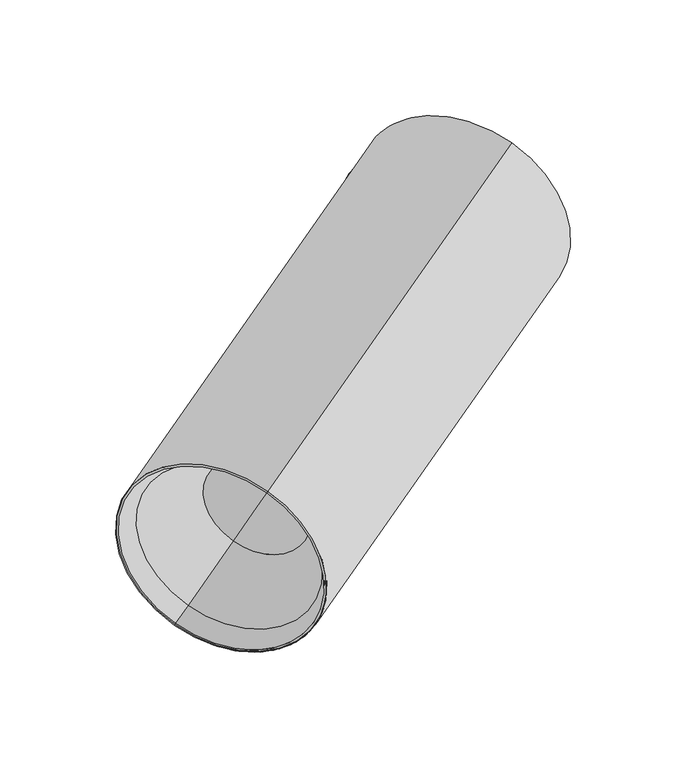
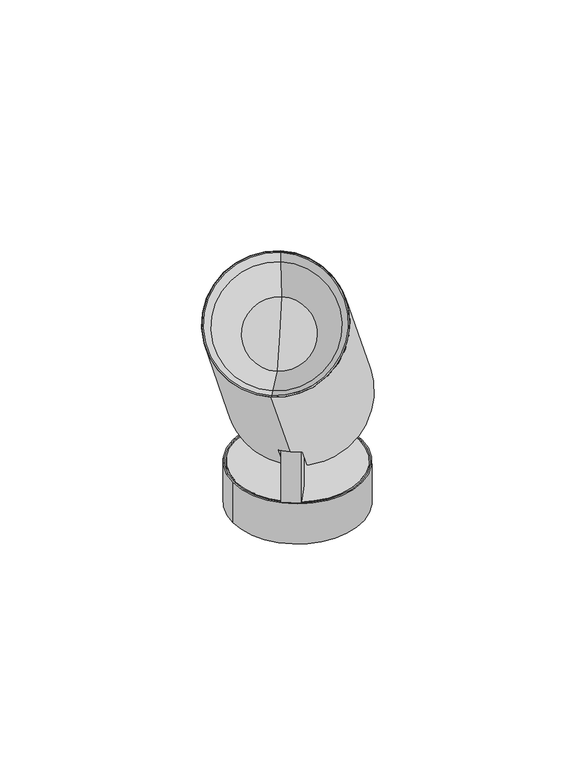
"""IFC4 building model written with IfcOpenShell, lengths in millimetres: light fixture geometry, PIPES C S : 1700 21W-830 28°."""

from ifc_helpers import new_model, si_unit, point, frame, frame_2d, origin, origin_with_axes, origin_2d, place, context, project, spatial, polyline, circle_curve, trimmed, segment, composite_curve, outline, extrude, source, transform, mapped, element, save
from ifc_brep_helpers import plane_surface, cylinder_surface, revolved_surface, advanced_brep


def light_fixture_a0fbeb15(model_context):
    return source(origin(), model_context, "Body", "SolidModel", [
        advanced_brep(
        [(-16.7954209, -37.9339212, 92.8492424), (-0.5722294, -14.7648026, 64.5649712), (-7.6003748, -24.8020345, 52.3117735), (-3.1389971, -18.4305269, 44.5335989), (-3.9611935, -19.604745, 43.1001433), (-24.6457627, -49.1453713, 79.1625891), (-29.9018536, -28.7566982, 92.8492424), (-37.7521954, -39.9681483, 79.1625891), (-17.0676262, -10.427522, 43.1001433), (-16.2454299, -9.2533039, 44.5335989), (-20.7068075, -15.6248115, 52.3117735), (-13.6786621, -5.5875796, 64.5649712), (-7.1254457, -10.1761911, 64.5649712), (-31.460233, -44.929869, 78.7071068), (-75.6684299, -108.0657173, 297.2031022), (-116.2264086, -165.9885138, 226.492424), (-110.3790223, -157.6375807, 223.5599433), (-73.986428, -105.6635696, 287.0084952), (29.7823149, 42.5335537, 113.3553391), (28.9711554, 41.3750978, 111.9411255), (24.5097777, 35.0035902, 119.7193001), (5.0419479, 7.2006478, 85.7781746), (-69.4831478, -99.232219, 252.3808823), (-90.5174395, -129.2723008, 215.7087138), (-80.0002936, -114.2522599, 234.0447981)],
        [
            (0, 1),
            (1, 2),
            (2, 3),
            (3, 4),
            (4, 5),
            (5, 0),
            (6, 7),
            (7, 8),
            (8, 9),
            (9, 10),
            (10, 11),
            (11, 6),
            (0, 6),
            (11, 12),
            (12, 1),
            (5, 13, circle_curve(frame((-11.1812436, -15.9684708, 114.0624458), z_axis=(0.40557978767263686, 0.5792279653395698, -0.7071067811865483), x_axis=(-0.40557978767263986, -0.5792279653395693, -0.7071067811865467)), 50.0)),
            (13, 7, circle_curve(frame((-11.1812436, -15.9684708, 114.0624458), z_axis=(0.40557978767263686, 0.5792279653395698, -0.7071067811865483), x_axis=(-0.40557978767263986, -0.5792279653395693, -0.7071067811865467)), 50.0)),
            (14, 15, circle_curve(frame((-95.9474192, -137.0271155, 261.8477631), z_axis=(-0.40557978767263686, -0.5792279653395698, 0.7071067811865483), x_axis=(-0.40557978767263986, -0.5792279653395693, -0.7071067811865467)), 50.0)),
            (15, 16),
            (16, 17, circle_curve(frame((-92.1827251, -131.6505752, 255.2842192), z_axis=(0.40557978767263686, 0.5792279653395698, -0.7071067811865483), x_axis=(-0.40557978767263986, -0.5792279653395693, -0.7071067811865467)), 44.8649013)),
            (17, 14),
            (15, 14, circle_curve(frame((-95.9474192, -137.0271155, 261.8477631), z_axis=(-0.40557978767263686, -0.5792279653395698, 0.7071067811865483), x_axis=(-0.40557978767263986, -0.5792279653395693, -0.7071067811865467)), 50.0)),
            (17, 16, circle_curve(frame((-92.1827251, -131.6505752, 255.2842192), z_axis=(0.40557978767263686, 0.5792279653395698, -0.7071067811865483), x_axis=(-0.40557978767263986, -0.5792279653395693, -0.7071067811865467)), 44.8649013)),
            (14, 18),
            (18, 8, circle_curve(frame((9.5033256, 13.5721555, 78.0), z_axis=(-0.40557978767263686, -0.5792279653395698, 0.7071067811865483), x_axis=(-0.40557978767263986, -0.5792279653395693, -0.7071067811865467)), 50.0)),
            (13, 15),
            (4, 18, circle_curve(frame((9.5033256, 13.5721555, 78.0), z_axis=(-0.40557978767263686, -0.5792279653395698, 0.7071067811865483), x_axis=(-0.40557978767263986, -0.5792279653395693, -0.7071067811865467)), 50.0)),
            (18, 19),
            (19, 9, circle_curve(frame((9.5033256, 13.5721555, 78.0), z_axis=(-0.40557978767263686, -0.5792279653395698, 0.7071067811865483), x_axis=(-0.40557978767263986, -0.5792279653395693, -0.7071067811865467)), 48.0)),
            (3, 19, circle_curve(frame((9.5033256, 13.5721555, 78.0), z_axis=(-0.40557978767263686, -0.5792279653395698, 0.7071067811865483), x_axis=(-0.40557978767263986, -0.5792279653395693, -0.7071067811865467)), 48.0)),
            (19, 20),
            (20, 10, circle_curve(frame((5.0419479, 7.2006478, 85.7781746), z_axis=(-0.40557978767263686, -0.5792279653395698, 0.7071067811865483), x_axis=(-0.40557978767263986, -0.5792279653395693, -0.7071067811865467)), 48.0)),
            (2, 20, circle_curve(frame((5.0419479, 7.2006478, 85.7781746), z_axis=(-0.40557978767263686, -0.5792279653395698, 0.7071067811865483), x_axis=(-0.40557978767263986, -0.5792279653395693, -0.7071067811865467)), 48.0)),
            (20, 21),
            (21, 12),
            (22, 23, circle_curve(frame((-80.0002936, -114.2522599, 234.0447981), z_axis=(-0.40557978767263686, -0.5792279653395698, 0.7071067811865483), x_axis=(-0.40557978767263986, -0.5792279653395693, -0.7071067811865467)), 25.931139)),
            (23, 24),
            (24, 22),
            (23, 22, circle_curve(frame((-80.0002936, -114.2522599, 234.0447981), z_axis=(-0.40557978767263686, -0.5792279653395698, 0.7071067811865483), x_axis=(-0.40557978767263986, -0.5792279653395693, -0.7071067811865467)), 25.931139)),
            (16, 23),
            (22, 17),
        ],
        [
            plane_surface(frame((-16.7954209, -37.9339212, 92.8492424), z_axis=(-0.8191520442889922, 0.5735764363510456, 0.0), x_axis=(-0.4055797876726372, -0.5792279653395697, 0.7071067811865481))),
            plane_surface(frame((-29.9018536, -28.7566982, 92.8492424), z_axis=(0.8191520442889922, -0.5735764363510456, 0.0), x_axis=(0.4055797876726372, 0.5792279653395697, -0.7071067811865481))),
            plane_surface(frame((-29.9018536, -28.7566982, 92.8492424), z_axis=(-0.4055797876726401, -0.5792279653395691, -0.707106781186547), x_axis=(0.8191520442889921, -0.5735764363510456, 0.0))),
            plane_surface(frame((-40.0413483, -43.2373974, 75.1715729), z_axis=(0.4055797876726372, 0.5792279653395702, -0.7071067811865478), x_axis=(0.8191520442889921, -0.5735764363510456, 0.0))),
            revolved_surface(polyline([(-110.3790223, -157.6375807, 223.5599433), (-116.2264086, -165.9885138, 226.492424)]), (11.7147011, 16.730327, 74.1445845), (0.40557978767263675, 0.5792279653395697, -0.7071067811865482)),
            cylinder_surface(frame((11.7147011, 16.730327, 74.1445845), z_axis=(0.40557978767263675, 0.5792279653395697, -0.7071067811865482), x_axis=(-0.40557978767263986, -0.5792279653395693, -0.7071067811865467)), 50.0),
            plane_surface(frame((9.5033256, 13.5721555, 78.0), z_axis=(0.40557978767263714, 0.5792279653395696, -0.7071067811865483), x_axis=(-0.4055797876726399, -0.5792279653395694, -0.7071067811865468))),
            revolved_surface(polyline([(-9.964504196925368, -14.230786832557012, 44.05887451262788), (-14.425881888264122, -20.60229448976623, 51.83704915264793)]), (11.7147011, 16.730327, 74.1445845), (0.40557978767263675, 0.5792279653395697, -0.7071067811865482)),
            plane_surface(frame((5.0419479, 7.2006478, 85.7781746), z_axis=(0.40557978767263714, 0.5792279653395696, -0.7071067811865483), x_axis=(-0.4055797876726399, -0.5792279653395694, -0.7071067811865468))),
            plane_surface(frame((-80.0002936, -114.2522599, 234.0447981), z_axis=(-0.40557978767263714, -0.5792279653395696, 0.7071067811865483), x_axis=(-0.4055797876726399, -0.5792279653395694, -0.7071067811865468))),
            revolved_surface(polyline([(-90.5174395, -129.2723008, 215.7087138), (-110.3790223, -157.6375807, 223.5599433)]), (11.7147011, 16.730327, 74.1445845), (0.40557978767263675, 0.5792279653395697, -0.7071067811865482)),
        ],
        [
            (0, [[1, 2, 3, 4, 5, 6]]),
            (1, [[7, 8, 9, 10, 11, 12]]),
            (2, [[13, -12, 14, 15, -1]]),
            (3, [[-13, -6, 16, 17, -7]]),
            (4, [[18, 19, 20, 21]]),
            (4, [[-19, 22, -21, 23]]),
            (5, [[-18, 24, 25, -8, -17, 26]]),
            (5, [[-22, -26, -16, -5, 27, -24]]),
            (6, [[28, 29, -9, -25]]),
            (6, [[-28, -27, -4, 30]]),
            (7, [[31, 32, -10, -29]]),
            (7, [[-31, -30, -3, 33]]),
            (8, [[34, 35, -14, -11, -32]]),
            (8, [[-34, -33, -2, -15, -35]]),
            (9, [[36, 37, 38]]),
            (9, [[-37, 39, -38]]),
            (10, [[-20, 40, -36, 41]]),
            (10, [[-23, -41, -39, -40]]),
        ],
    ),
        advanced_brep(
        [(3.0779887, -9.5517509, 58.2010101), (3.8891483, -8.393295, 56.7867966), (-2.3152934, -17.254156, 45.9696827), (-3.1264529, -18.4126119, 47.3838962), (-9.2172844, 0.783928, 56.7867966), (-10.028444, -0.3745279, 58.2010101), (-16.2328856, -9.2353889, 47.3838962), (-15.4217261, -8.076933, 45.9696827), (-3.4752276, -4.9631394, 58.2010101), (-2.6640681, -3.8046835, 56.7867966), (8.8283114, 12.6081353, 79.6515758), (27.6185489, 39.4433755, 112.4113551), (28.4297084, 40.6018314, 110.9971416), (9.6394709, 13.7665912, 78.2373622)],
        [
            (0, 1),
            (1, 2),
            (2, 3),
            (3, 0),
            (4, 5),
            (5, 6),
            (6, 7),
            (7, 4),
            (0, 8),
            (8, 5),
            (4, 9),
            (9, 1),
            (10, 11),
            (11, 6, circle_curve(frame((8.8283114, 12.6081353, 79.6515758), z_axis=(-0.405579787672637, -0.57922796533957, 0.7071067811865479), x_axis=(-0.4055797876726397, -0.5792279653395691, -0.7071067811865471)), 46.3293243)),
            (8, 10),
            (3, 11, circle_curve(frame((8.8283114, 12.6081353, 79.6515758), z_axis=(-0.405579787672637, -0.57922796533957, 0.7071067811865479), x_axis=(-0.4055797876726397, -0.5792279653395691, -0.7071067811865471)), 46.3293243)),
            (11, 12),
            (12, 7, circle_curve(frame((9.6394709, 13.7665912, 78.2373622), z_axis=(-0.405579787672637, -0.57922796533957, 0.7071067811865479), x_axis=(-0.4055797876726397, -0.5792279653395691, -0.7071067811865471)), 46.3293243)),
            (2, 12, circle_curve(frame((9.6394709, 13.7665912, 78.2373622), z_axis=(-0.405579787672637, -0.57922796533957, 0.7071067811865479), x_axis=(-0.4055797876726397, -0.5792279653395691, -0.7071067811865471)), 46.3293243)),
            (12, 13),
            (13, 9),
        ],
        [
            plane_surface(frame((-16.7954209, -37.9339212, 92.8492424), z_axis=(-0.8191520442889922, 0.5735764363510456, 0.0), x_axis=(-0.4055797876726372, -0.5792279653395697, 0.7071067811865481))),
            plane_surface(frame((-29.9018536, -28.7566982, 92.8492424), z_axis=(0.8191520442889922, -0.5735764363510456, 0.0), x_axis=(0.4055797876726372, 0.5792279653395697, -0.7071067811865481))),
            plane_surface(frame((-29.9018536, -28.7566982, 92.8492424), z_axis=(-0.4055797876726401, -0.5792279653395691, -0.707106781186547), x_axis=(0.8191520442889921, -0.5735764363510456, 0.0))),
            plane_surface(frame((8.8283114, 12.6081353, 79.6515758), z_axis=(-0.40557978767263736, -0.5792279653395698, 0.7071067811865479), x_axis=(-0.4055797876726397, -0.5792279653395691, -0.7071067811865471))),
            cylinder_surface(frame((11.8508464, 16.9247627, 74.3819467), z_axis=(0.405579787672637, 0.57922796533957, -0.7071067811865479), x_axis=(-0.4055797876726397, -0.5792279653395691, -0.7071067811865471)), 46.3293243),
            plane_surface(frame((9.6394709, 13.7665912, 78.2373622), z_axis=(0.40557978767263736, 0.5792279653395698, -0.7071067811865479), x_axis=(-0.4055797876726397, -0.5792279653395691, -0.7071067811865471))),
        ],
        [
            (0, [[1, 2, 3, 4]]),
            (1, [[5, 6, 7, 8]]),
            (2, [[-1, 9, 10, -5, 11, 12]]),
            (3, [[13, 14, -6, -10, 15]]),
            (3, [[-13, -15, -9, -4, 16]]),
            (4, [[17, 18, -7, -14]]),
            (4, [[-17, -16, -3, 19]]),
            (5, [[20, 21, -11, -8, -18]]),
            (5, [[-20, -19, -2, -12, -21]]),
        ],
    ),
        advanced_brep(
        [(-75.6684299, -108.0657173, 297.2031022), (-116.2264086, -165.9885138, 226.492424), (-115.7629019, -165.3265576, 227.3005233), (-76.1319366, -108.7276734, 296.3950029), (-70.1125036, -100.1310323, 252.6978475), (-90.6992433, -129.5319435, 216.8059622), (-80.4058734, -114.8314879, 234.7519049), (-74.5421828, -106.4572698, 286.7595114), (-110.236211, -157.4336251, 224.5288722), (-73.986428, -105.6635696, 287.0084952), (-110.3790223, -157.6375807, 223.5599433), (-69.4831478, -99.232219, 252.3808823), (-90.5174395, -129.2723008, 215.7087138), (-80.0002936, -114.2522599, 234.0447981)],
        [
            (0, 1, circle_curve(frame((-95.9474192, -137.0271155, 261.8477631), z_axis=(-0.4055797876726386, -0.5792279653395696, 0.7071067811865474), x_axis=(-0.40557978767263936, -0.5792279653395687, -0.7071067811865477)), 50.0)),
            (1, 2),
            (2, 3, circle_curve(frame((-95.9474192, -137.0271155, 261.8477631), z_axis=(0.4055797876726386, 0.5792279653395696, -0.7071067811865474), x_axis=(-0.40557978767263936, -0.5792279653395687, -0.7071067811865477)), 48.857175)),
            (3, 0),
            (1, 0, circle_curve(frame((-95.9474192, -137.0271155, 261.8477631), z_axis=(-0.4055797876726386, -0.5792279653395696, 0.7071067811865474), x_axis=(-0.40557978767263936, -0.5792279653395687, -0.7071067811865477)), 50.0)),
            (3, 2, circle_curve(frame((-95.9474192, -137.0271155, 261.8477631), z_axis=(0.4055797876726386, 0.5792279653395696, -0.7071067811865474), x_axis=(-0.40557978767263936, -0.5792279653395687, -0.7071067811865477)), 48.857175)),
            (4, 5, circle_curve(frame((-80.4058734, -114.8314879, 234.7519049), z_axis=(-0.4055797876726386, -0.5792279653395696, 0.7071067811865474), x_axis=(-0.40557978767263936, -0.5792279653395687, -0.7071067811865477)), 25.3793955)),
            (5, 6),
            (6, 4),
            (5, 4, circle_curve(frame((-80.4058734, -114.8314879, 234.7519049), z_axis=(-0.4055797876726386, -0.5792279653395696, 0.7071067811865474), x_axis=(-0.40557978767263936, -0.5792279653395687, -0.7071067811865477)), 25.3793955)),
            (7, 8, circle_curve(frame((-92.3891969, -131.9454474, 255.6441918), z_axis=(-0.4055797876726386, -0.5792279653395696, 0.7071067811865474), x_axis=(-0.40557978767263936, -0.5792279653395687, -0.7071067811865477)), 44.0037069)),
            (8, 5),
            (4, 7),
            (8, 7, circle_curve(frame((-92.3891969, -131.9454474, 255.6441918), z_axis=(-0.4055797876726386, -0.5792279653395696, 0.7071067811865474), x_axis=(-0.40557978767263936, -0.5792279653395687, -0.7071067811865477)), 44.0037069)),
            (9, 10, circle_curve(frame((-92.1827251, -131.6505752, 255.2842192), z_axis=(-0.4055797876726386, -0.5792279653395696, 0.7071067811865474), x_axis=(-0.40557978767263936, -0.5792279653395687, -0.7071067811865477)), 44.8649013)),
            (10, 1),
            (0, 9),
            (10, 9, circle_curve(frame((-92.1827251, -131.6505752, 255.2842192), z_axis=(-0.4055797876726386, -0.5792279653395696, 0.7071067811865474), x_axis=(-0.40557978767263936, -0.5792279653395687, -0.7071067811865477)), 44.8649013)),
            (11, 12, circle_curve(frame((-80.0002936, -114.2522599, 234.0447981), z_axis=(-0.4055797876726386, -0.5792279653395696, 0.7071067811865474), x_axis=(-0.40557978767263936, -0.5792279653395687, -0.7071067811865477)), 25.931139)),
            (12, 10),
            (9, 11),
            (12, 11, circle_curve(frame((-80.0002936, -114.2522599, 234.0447981), z_axis=(-0.4055797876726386, -0.5792279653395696, 0.7071067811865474), x_axis=(-0.40557978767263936, -0.5792279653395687, -0.7071067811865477)), 25.931139)),
            (13, 12),
            (11, 13),
            (2, 8),
            (7, 3),
        ],
        [
            plane_surface(frame((-95.9474192, -137.0271155, 261.8477631), z_axis=(-0.40557978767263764, -0.5792279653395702, 0.7071067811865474), x_axis=(-0.40557978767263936, -0.5792279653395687, -0.7071067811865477))),
            plane_surface(frame((-80.4058734, -114.8314879, 234.7519049), z_axis=(-0.40557978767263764, -0.5792279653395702, 0.7071067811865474), x_axis=(-0.40557978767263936, -0.5792279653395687, -0.7071067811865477))),
            revolved_surface(polyline([(-90.6992433, -129.5319435, 216.8059622), (-110.236211, -157.4336251, 224.5288722)]), (12.04478, 17.2017286, 73.5691094), (0.4055797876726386, 0.5792279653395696, -0.7071067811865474)),
            revolved_surface(polyline([(-116.2264086, -165.9885138, 226.492424), (-110.3790223, -157.6375807, 223.5599433)]), (12.04478, 17.2017286, 73.5691094), (0.4055797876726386, 0.5792279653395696, -0.7071067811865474)),
            revolved_surface(polyline([(-110.3790223, -157.6375807, 223.5599433), (-90.5174395, -129.2723008, 215.7087138)]), (12.04478, 17.2017286, 73.5691094), (0.4055797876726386, 0.5792279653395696, -0.7071067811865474)),
            plane_surface(frame((-80.0002936, -114.2522599, 234.0447981), z_axis=(0.40557978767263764, 0.5792279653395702, -0.7071067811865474), x_axis=(-0.40557978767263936, -0.5792279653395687, -0.7071067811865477))),
            revolved_surface(polyline([(-110.236211, -157.4336251, 224.5288722), (-115.7629019, -165.3265576, 227.3005233)]), (12.04478, 17.2017286, 73.5691094), (0.4055797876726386, 0.5792279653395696, -0.7071067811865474)),
        ],
        [
            (0, [[1, 2, 3, 4]]),
            (0, [[5, -4, 6, -2]]),
            (1, [[7, 8, 9]]),
            (1, [[10, -9, -8]]),
            (2, [[11, 12, -7, 13]]),
            (2, [[14, -13, -10, -12]]),
            (3, [[15, 16, -1, 17]]),
            (3, [[18, -17, -5, -16]]),
            (4, [[19, 20, -15, 21]]),
            (4, [[22, -21, -18, -20]]),
            (5, [[23, -19, 24]]),
            (5, [[-24, -22, -23]]),
            (6, [[-3, 25, -11, 26]]),
            (6, [[-6, -26, -14, -25]]),
        ],
    ),
        extrude(outline(composite_curve([segment(trimmed(circle_curve(origin_2d(), 48.0), [point((-39.3192981, 27.5316689))], [point((39.3192981, -27.5316689))], False, "CARTESIAN"), True, "CONTINUOUS"), segment(trimmed(circle_curve(origin_2d(), 48.0), [point((39.3192981, -27.5316689))], [point((-39.3192981, 27.5316689))], False, "CARTESIAN"), True, "CONTINUOUS")], self_intersect=False)), origin_with_axes(), (0.0, 0.0, 1.0), 33.0),
        extrude(outline(composite_curve([segment(trimmed(circle_curve(frame_2d((0.0, -8.549968)), 8.5499681), [point((-0.2983896, -17.0947277))], [point((-8.4667604, -9.7398936))], False, "CARTESIAN"), True, "CONTINUOUS"), segment(polyline([(-8.4667604, -9.7398936), (-9.7509831, -0.6021744), (-7.5438399, -0.6021744), (-7.5438399, 1.8978256), (46.2490169, 1.8978256), (46.2490169, -17.0947277), (-0.2983896, -17.0947277)]), True, "CONTINUOUS")], self_intersect=False)), frame((-21.282633, -42.5988775, 79.2490169), z_axis=(-0.8191520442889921, 0.5735764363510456, 0.0), x_axis=(0.0, 0.0, -1.0)), (0.0, 0.0, 1.0), 14.0),
        extrude(outline(composite_curve([segment(trimmed(circle_curve(origin_2d(), 50.0), [point((-50.0, 0.0))], [point((50.0, 0.0))], False, "CARTESIAN"), True, "CONTINUOUS"), segment(trimmed(circle_curve(origin_2d(), 50.0), [point((50.0, 0.0))], [point((-50.0, 0.0))], False, "CARTESIAN"), True, "CONTINUOUS")], self_intersect=False), holes=[composite_curve([segment(trimmed(circle_curve(origin_2d(), 49.0), [point((-49.0, 0.0))], [point((49.0, 0.0))], True, "CARTESIAN"), True, "CONTINUOUS"), segment(trimmed(circle_curve(origin_2d(), 49.0), [point((49.0, 0.0))], [point((-49.0, 0.0))], True, "CARTESIAN"), True, "CONTINUOUS")], self_intersect=False)]), origin_with_axes(), (0.0, 0.0, 1.0), 33.0),
    ])


if __name__ == "__main__":
    model = new_model("IFC4")
    model_context = context("Model", 3, world=origin())
    ifc_project = project(units=[si_unit("LENGTHUNIT", "METRE", prefix="MILLI")], contexts=[model_context])
    site = spatial("IfcSite", under=ifc_project)
    building = spatial("IfcBuilding", under=site)
    placement = place(None, origin())
    light_fixture_shape = light_fixture_a0fbeb15(model_context)
    element("IfcLightFixture", 1, ObjectType="PIPES C S : 1700 21W-830 28°", at=placement, inside=building, context=model_context, shape_type="MappedRepresentation", body=[
        mapped(light_fixture_shape, transform((0.0, 0.0, 0.0), x_axis=(1.0, 0.0, 0.0), y_axis=(0.0, 1.0, 0.0), z_axis=(0.0, 0.0, 1.0))),
    ])
    save(model, "model.ifc")
